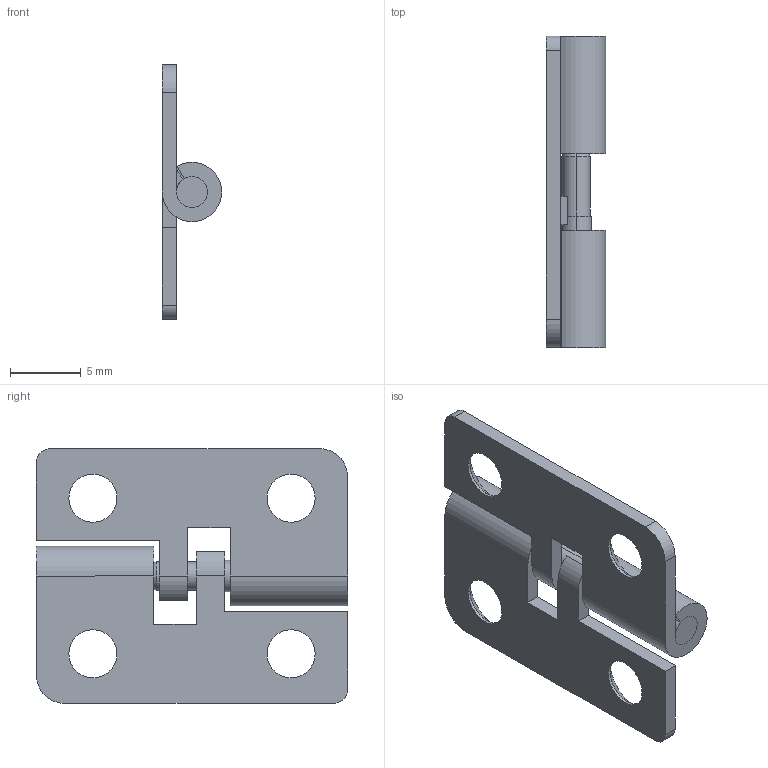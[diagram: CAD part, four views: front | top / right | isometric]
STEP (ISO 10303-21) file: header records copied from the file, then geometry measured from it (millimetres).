
FILE_DESCRIPTION (( 'STEP AP203' ), '1' );
FILE_NAME ('DEH-31-1(R).STEP', '2013-08-29T05:34:34', ( '中村　妙子' ), ( 'ＮＴ設計' ), 'SwSTEP 2.0', 'SolidWorks 2002296', '' );
FILE_SCHEMA (( 'CONFIG_CONTROL_DESIGN' ));
Length unit declared in the file: millimetre
Products named in the file (3): DEH-31-1(R); DEH-31-1-1(R)_蹬怮椔; DEH-31-1-2(R)_蹬怮椔
Assembly tree (3 placements, depth 2):
  DEH-31-1(R)
    DEH-31-1-2(R)_蹬怮椔  x2
    DEH-31-1-1(R)_蹬怮椔
Bounding box: 4.2 x 22 x 18 mm (x, y, z)
Volume: 474.7 mm3; surface area: 1182.5 mm2
Topology: 3 solids, 3 shells, 61 faces, 152 edges, 98 vertices
Faces by surface type: plane 27, cylinder 24, cone 10
Entity records: 1369 total; most frequent: DIRECTION 200, CARTESIAN_POINT 179, ORIENTED_EDGE 168, EDGE_CURVE 84, AXIS2_PLACEMENT_3D 75, VERTEX_POINT 54, LINE 50, VECTOR 50
